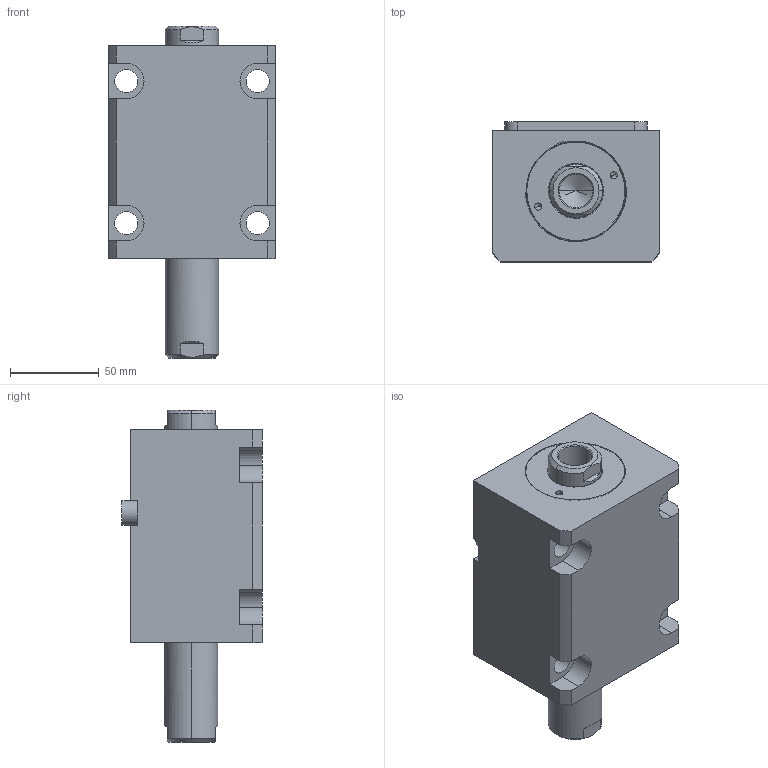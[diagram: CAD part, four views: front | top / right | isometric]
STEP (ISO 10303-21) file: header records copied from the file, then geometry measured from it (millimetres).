
FILE_DESCRIPTION (( 'STEP AP203' ), '1' );
FILE_NAME ('CHTB-LWM50-45N.STEP', '2018-05-22T08:06:20', ( '' ), ( '' ), 'SwSTEP 2.0', 'SolidWorks 2015', '' );
FILE_SCHEMA (( 'CONFIG_CONTROL_DESIGN' ));
Length unit declared in the file: millimetre
Products named in the file (4): CHTB-LWM50-45N; 掛极LWM50-45N; 活塞杆LWM50-45N; CHTM-SDMA50QG
Assembly tree (3 placements, depth 2):
  CHTB-LWM50-45N
    掛极LWM50-45N
    CHTM-SDMA50QG
    活塞杆LWM50-45N
Bounding box: 94 x 79 x 187 mm (x, y, z)
Volume: 754003.4 mm3; surface area: 124293.4 mm2
Topology: 3 solids, 3 shells, 213 faces, 571 edges, 374 vertices
Faces by surface type: cylinder 104, plane 57, cone 22, torus 16, bspline 14
Entity records: 11569 total; most frequent: CARTESIAN_POINT 6050, ORIENTED_EDGE 1126, DIRECTION 1011, EDGE_CURVE 563, AXIS2_PLACEMENT_3D 396, VERTEX_POINT 374, EDGE_LOOP 247, LINE 219
